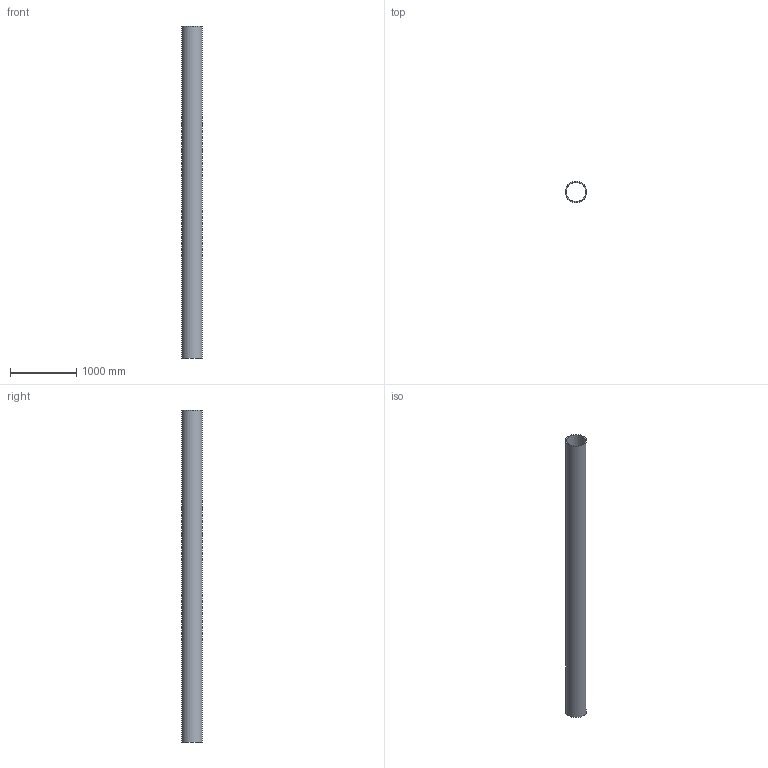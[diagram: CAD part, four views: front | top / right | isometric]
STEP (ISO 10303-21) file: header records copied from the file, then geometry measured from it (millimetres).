
FILE_DESCRIPTION(/* description */ (''),/* implementation_level */ '2;1');
FILE_NAME(/* name */ 'Z:\Geberit\Export\Export18\Rohr PE_Ipart\stp\372050.stp',/* time_stamp */ '2014-08-26T22:08:50+02:00',/* author */ ('Bründl'),/* organization */ (''),/* preprocessor_version */ 'ST-DEVELOPER v15.2',/* originating_system */ 'Autodesk Inventor 2014',/* authorisation */ '');
FILE_SCHEMA (('AUTOMOTIVE_DESIGN { 1 0 10303 214 3 1 1 }'));
Length unit declared in the file: millimetre
Products named in the file (1): 372050
Bounding box: 315 x 315 x 5000 mm (x, y, z)
Volume: 58027729.6 mm3; surface area: 9535953.6 mm2
Topology: 1 solids, 1 shells, 4 faces, 6 edges, 4 vertices
Faces by surface type: cylinder 2, plane 2
Full cylindrical faces by diameter (mm): 290.6 x1, 315 x1
Entity records: 113 total; most frequent: DIRECTION 18, CARTESIAN_POINT 13, AXIS2_PLACEMENT_3D 9, EDGE_LOOP 8, ORIENTED_EDGE 8, FACE_BOUND 6, STYLED_ITEM 5, CIRCLE 4
